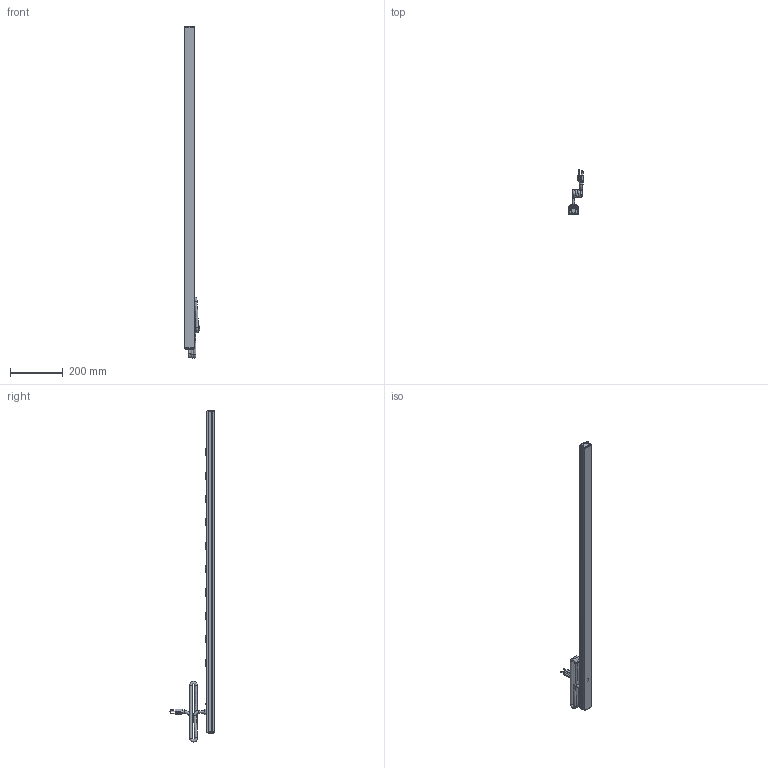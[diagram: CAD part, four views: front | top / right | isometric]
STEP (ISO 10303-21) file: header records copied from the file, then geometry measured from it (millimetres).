
FILE_DESCRIPTION((''),'2;1');
FILE_NAME('E:\Dutton\Manufacturing\drawings\Updated 2009\Vertical Rack Mount Strips\1585 Series\STEP''s\1585T10A1.stp','2010-01-19T07:25:59',('tfoster'),(''),'Autodesk Inventor 2010','Autodesk Inventor 2010','');
FILE_SCHEMA(('AUTOMOTIVE_DESIGN { 1 0 10303 214 1 1 1 1 }'));
Products named in the file (12): 1585T10A1; 1585H10 top; 1585 bottom; End Cap; End Cap w breaker; Reset Switch; #6 - 0.375 Type A screw; Cored 2; toothwasher; round head 1-way 8-32 x 0.5 screw; Receptacle; Pilot light
Assembly tree (23 placements, depth 2):
  1585T10A1
    1585H10 top
    1585 bottom
    End Cap
    End Cap w breaker
    Reset Switch
    #6 - 0.375 Type A screw  x4
    Cored 2
    toothwasher
    round head 1-way 8-32 x 0.5 screw
    Receptacle  x10
    Pilot light
Bounding box: 60.19 x 170.82 x 1262.78 mm (x, y, z)
Volume: 524942.2 mm3; surface area: 485213.6 mm2
Topology: 23 solids, 23 shells, 1154 faces, 3300 edges, 2178 vertices
Faces by surface type: plane 702, cylinder 259, bspline 105, sphere 46, cone 27, torus 15
Full cylindrical faces by diameter (mm): 1.803 x3, 1.905 x2, 3 x2, 3.175 x12, 4.3 x1, 4.775 x1, 4.826 x1, 7.849 x1, 9.5 x5, 11 x1, 15.621 x1, 19.05 x2
Entity records: 24851 total; most frequent: CARTESIAN_POINT 8742, ORIENTED_EDGE 3474, DIRECTION 2946, EDGE_CURVE 1737, VERTEX_POINT 1231, VECTOR 1028, LINE 1028, AXIS2_PLACEMENT_3D 959
